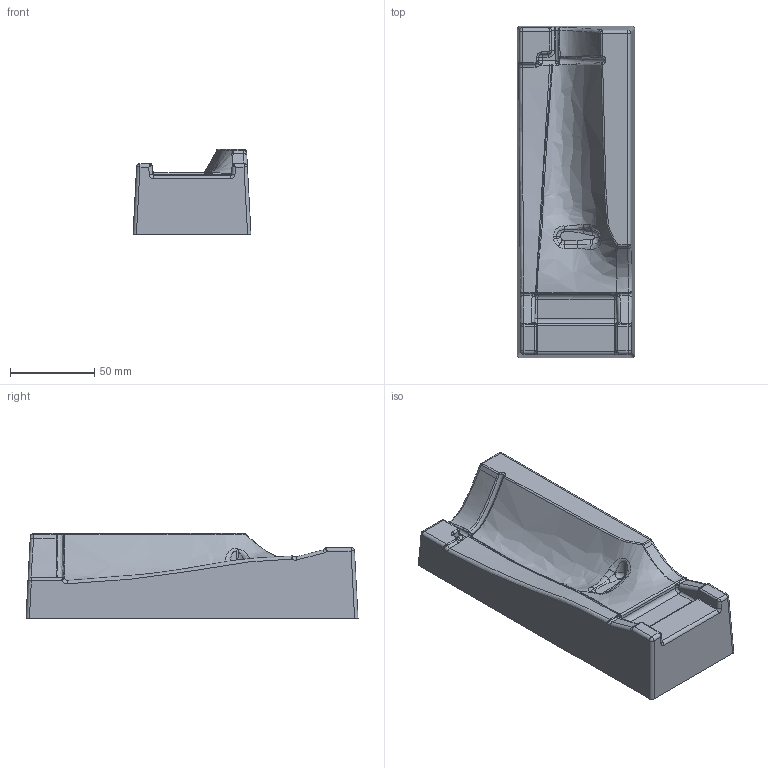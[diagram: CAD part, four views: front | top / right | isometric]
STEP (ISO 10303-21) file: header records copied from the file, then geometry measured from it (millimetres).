
FILE_DESCRIPTION(/* description */ (''),/* implementation_level */ '2;1');
FILE_NAME(/* name */ 'Ложемент 2 ступени.stp',/* time_stamp */ '2025-01-22T16:32:57+03:00',/* author */ (''),/* organization */ (''),/* preprocessor_version */ 'ST-DEVELOPER v18.1',/* originating_system */ 'SIEMENS PLM Software NX 1973',/* authorisation */ '');
FILE_SCHEMA (('AUTOMOTIVE_DESIGN { 1 0 10303 214 3 1 1 1 }'));
Length unit declared in the file: millimetre
Products named in the file (1): U1411D49C52hrnl
Bounding box: 69.96 x 197 x 50.5 mm (x, y, z)
Volume: 310491.3 mm3; surface area: 58448.5 mm2
Topology: 1 solids, 1 shells, 302 faces, 721 edges, 379 vertices
Faces by surface type: bspline 138, cylinder 89, plane 42, sphere 28, extrusion 5
Entity records: 18692 total; most frequent: CARTESIAN_POINT 12767, ORIENTED_EDGE 1352, DIRECTION 1082, EDGE_CURVE 676, AXIS2_PLACEMENT_3D 447, VERTEX_POINT 379, EDGE_LOOP 305, ADVANCED_FACE 302
